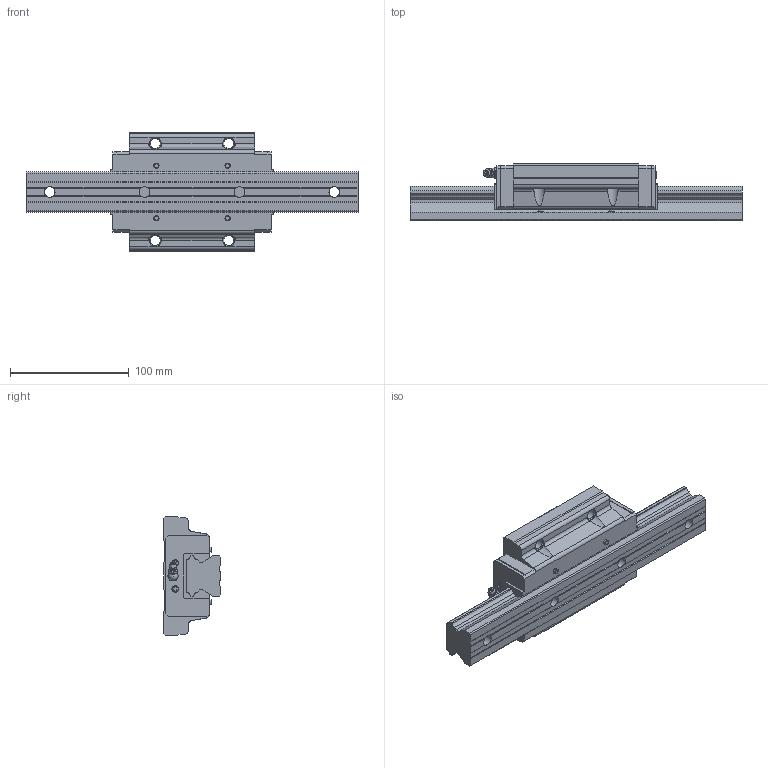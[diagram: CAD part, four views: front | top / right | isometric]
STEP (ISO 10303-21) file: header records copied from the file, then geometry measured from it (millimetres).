
FILE_DESCRIPTION(/* description */ ('STEP AP203'),/* implementation_level */ '2;1');
FILE_NAME(/* name */ 'HSR35M1LA1SS-280L_G20_0_B-M6F_71-3_0_0_0_1',/* time_stamp */ '2024-05-23T06:12:13+02:00',/* author */ ('License CC BY-ND 4.0'),/* organization */ ('CADENAS'),/* preprocessor_version */ 'ST-DEVELOPER v19.3',/* originating_system */ 'PARTsolutions',/* authorisation */ ' ');
FILE_SCHEMA (('CONFIG_CONTROL_DESIGN'));
Length unit declared in the file: millimetre
Products named in the file (4): HSR35M1LA1SS-280L_G20_0_B-M6F_71-3_0_0_0_1; HSR35M1LA128020 Rail; HSR35M1LASSB-M6F1 Slider; hsr_ftht_B-M6F_grease_nipple_joint
Assembly tree (3 placements, depth 2):
  HSR35M1LA1SS-280L_G20_0_B-M6F_71-3_0_0_0_1
    HSR35M1LA128020 Rail
    HSR35M1LASSB-M6F1 Slider
    hsr_ftht_B-M6F_grease_nipple_joint
Bounding box: 280 x 48 x 100 mm (x, y, z)
Volume: 573088.1 mm3; surface area: 90363.9 mm2
Topology: 3 solids, 3 shells, 270 faces, 728 edges, 473 vertices
Faces by surface type: plane 190, cylinder 46, cone 21, torus 10, sphere 3
Full cylindrical faces by diameter (mm): 4.369 x4, 4.917 x2, 5.7 x4, 6 x1, 8 x1, 8.376 x4, 9 x4, 14 x4
Entity records: 8209 total; most frequent: CARTESIAN_POINT 1529, DIRECTION 1328, ORIENTED_EDGE 1324, EDGE_CURVE 662, LINE 480, VECTOR 480, VERTEX_POINT 461, AXIS2_PLACEMENT_3D 424
